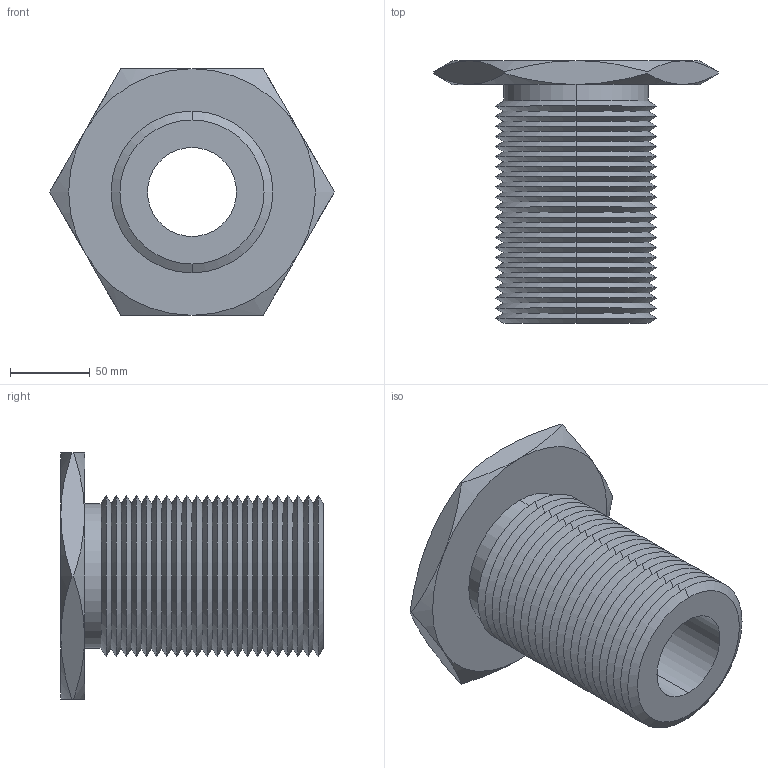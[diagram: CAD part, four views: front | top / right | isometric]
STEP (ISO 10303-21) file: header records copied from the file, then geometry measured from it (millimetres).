
FILE_DESCRIPTION (( 'STEP AP203' ), '1' );
FILE_NAME ('63302.W5400_M56x4.step', '2013-12-08T12:01:36', ( 'User' ), ( '' ), 'SwSTEP 2.0', 'SolidWorks 2009', '' );
FILE_SCHEMA (( 'CONFIG_CONTROL_DESIGN' ));
Length unit declared in the file: millimetre
Products named in the file (1): 63302.W5400_M56x4
Bounding box: 178.98 x 165 x 155 mm (x, y, z)
Volume: 976953.8 mm3; surface area: 158712.3 mm2
Topology: 1 solids, 1 shells, 115 faces, 234 edges, 122 vertices
Faces by surface type: cone 102, plane 9, cylinder 4
Entity records: 3179 total; most frequent: CARTESIAN_POINT 696, DIRECTION 552, ORIENTED_EDGE 468, EDGE_CURVE 234, AXIS2_PLACEMENT_3D 226, VERTEX_POINT 122, EDGE_LOOP 118, ADVANCED_FACE 115
